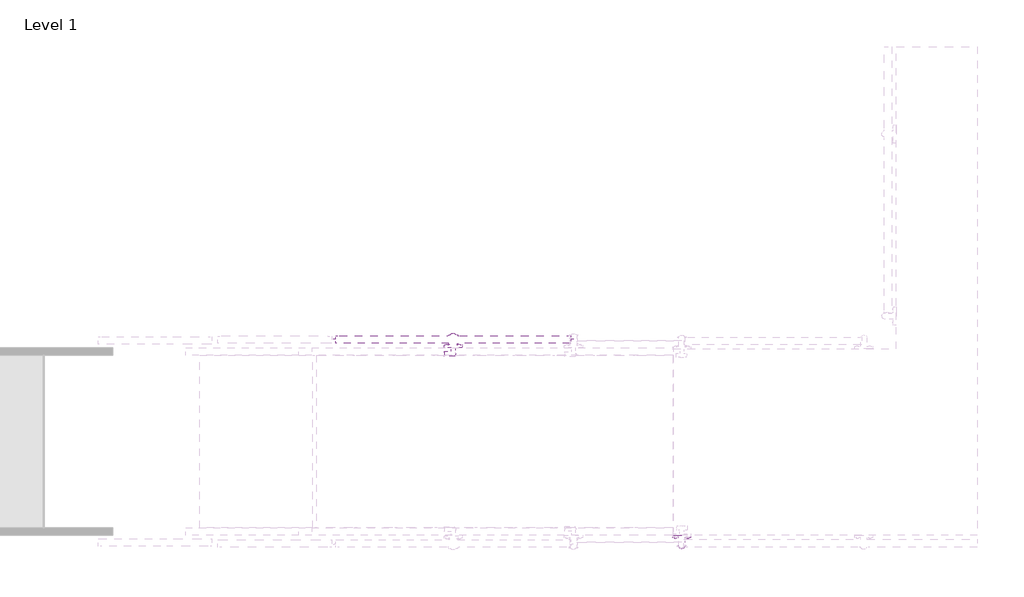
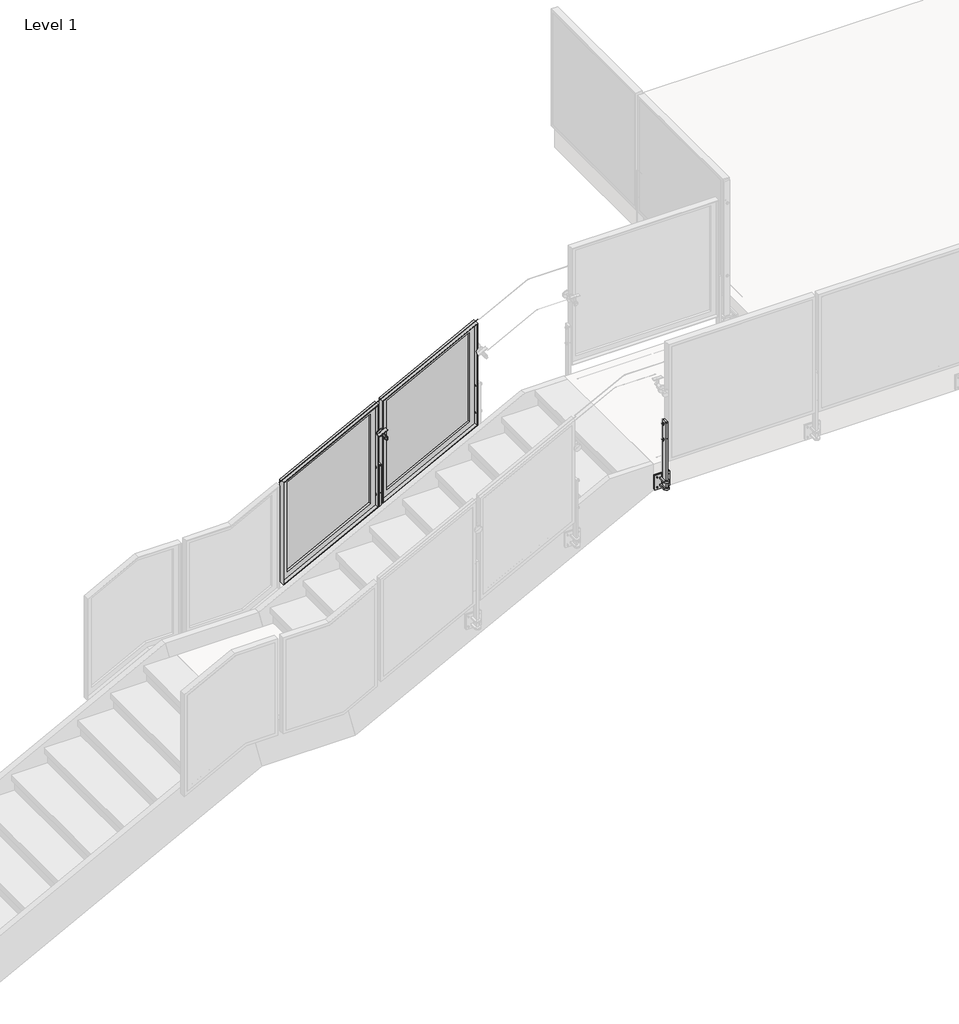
# One storey, part 23 of 37: 1 proxy, 1 railing.
"""IFC4 building model written with IfcOpenShell, lengths in millimetres."""

from ifc_helpers import new_model, si_unit, point, frame, frame_2d, origin, place, context, project, spatial, polyline, circle_curve, ellipse_curve, trimmed, segment, composite_curve, outline, extrude, faceted_brep, transform, mapped, element, save
from ifc_brep_helpers import plane_surface, cylinder_surface, advanced_brep
from components import baluster_end_post_viva_frame_top_mount_welded_fascia_mount_f3869cb3

model = new_model("IFC4")

# Units and contexts
model_context = context("Model", 3, world=origin())
ifc_project = project(units=[si_unit("LENGTHUNIT", "METRE", prefix="MILLI")], contexts=[model_context])

# Site, building, storey
site = spatial("IfcSite", under=ifc_project)
building = spatial("IfcBuilding", under=site)
storey = spatial("IfcBuildingStorey", under=building, Name="Level 1", Elevation=0.0)

# Proxy
placement = place(None, origin())
baluster_end_post_viva_frame_top_mount_welded_fascia_mount_shape = baluster_end_post_viva_frame_top_mount_welded_fascia_mount_f3869cb3(model_context)
element("IfcBuildingElementProxy", 1, Name="Baluster-End-Post-VIVA-FRAME-Top Mount : WELDED Fascia MOUNT FOLD_STRAIGHT", ObjectType="Baluster-End-Post-VIVA-FRAME-Top Mount : WELDED Fascia MOUNT FOLD_STRAIGHT", at=placement, inside=storey, context=model_context, shape_type="MappedRepresentation", body=[
    mapped(baluster_end_post_viva_frame_top_mount_welded_fascia_mount_shape, transform((-7412.9434339, -3841.0034112, 3047.492), x_axis=(1.0, 0.0, 0.0), y_axis=(0.0, 1.0, 0.0), z_axis=(0.0, 0.0, 1.0))),
])

# Railing
element("IfcRailing", 2, ObjectType="Metal-Panel-VIVA-FRAME-Fascia-Stairs-Upper", at=placement, inside=storey, context=model_context, shape_type="SolidModel", body=[
    advanced_brep(
    [(-9846.2150814, -2543.8507772, 2887.1943483), (-9846.2150814, -2542.8507772, 2887.1943483), (-8169.8150814, -2543.8507772, 3758.0514911), (-8169.8150814, -2542.8507772, 3758.0514911)],
    [
        (0, 1, ellipse_curve(frame((-9846.2150814, -2543.3507772, 2887.1943483), z_axis=(-1.0, 0.0, 0.0), x_axis=(0.0, 0.0, -1.0)), 0.5634403, 0.5)),
        (1, 0, ellipse_curve(frame((-9846.2150814, -2543.3507772, 2887.1943483), z_axis=(-1.0, 0.0, 0.0), x_axis=(0.0, 0.0, -1.0)), 0.5634403, 0.5)),
        (2, 3, ellipse_curve(frame((-8169.8150814, -2543.3507772, 3758.0514911), z_axis=(1.0, 0.0, 0.0), x_axis=(0.0, 0.0, -1.0)), 0.5634403, 0.5)),
        (3, 2, ellipse_curve(frame((-8169.8150814, -2543.3507772, 3758.0514911), z_axis=(1.0, 0.0, 0.0), x_axis=(0.0, 0.0, -1.0)), 0.5634403, 0.5)),
        (0, 2),
        (3, 1),
    ],
    [
        plane_surface(frame((-9846.2150814, -2543.3507772, 2887.7577886), z_axis=(-1.0, 0.0, 0.0), x_axis=(0.0, 1.0, 0.0))),
        plane_surface(frame((-8169.8150814, -2543.3507772, 3758.6149315), z_axis=(1.0, 0.0, 0.0), x_axis=(0.0, 1.0, 0.0))),
        cylinder_surface(frame((-9845.9845864, -2543.3507772, 2887.3140859), z_axis=(-0.8874054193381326, 0.0, -0.46098982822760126), x_axis=(0.0, 1.0, 0.0)), 0.5),
    ],
    [
        (0, [[1, 2]]),
        (1, [[3, 4]]),
        (2, [[-1, 5, -4, 6]]),
        (2, [[-2, -6, -3, -5]]),
    ],
),
    extrude(outline(polyline([(2460.8755486, -8963.5691244), (2850.1265024, -8214.2610383), (3704.4583258, -8214.2610383), (3315.2073719, -8963.5691244), (2460.8755486, -8963.5691244)])), frame((0.0, -2523.1053772, 0.0), z_axis=(0.0, 1.0, 0.0), x_axis=(0.0, 0.0, 1.0)), (0.0, 0.0, 1.0), 3.0),
    faceted_brep([(-8988.9691244, -2520.1053772, 3330.6353354), (-8188.8610383, -2520.1053772, 3746.2758996), (-8188.8610383, -2520.1053772, 2834.6985389), (-8988.9691244, -2520.1053772, 2419.0579747), (-8963.5691244, -2520.1053772, 3315.2073719), (-8963.5691244, -2520.1053772, 2460.8755486), (-8214.2610383, -2520.1053772, 2850.1265024), (-8214.2610383, -2520.1053772, 3704.4583258), (-8963.5691244, -2523.1053772, 2460.8755486), (-8214.2610383, -2523.1053772, 2850.1265024), (-8214.2610383, -2523.1053772, 3704.4583258), (-8963.5691244, -2523.1053772, 3315.2073719), (-8982.9747244, -2573.9053772, 2428.9269221), (-8194.8554383, -2573.9053772, 2838.3395383), (-8194.8554383, -2543.0951772, 2838.3395383), (-8982.9747244, -2543.0951772, 2428.9269221), (-8194.8554383, -2573.9053772, 3736.4069522), (-8194.8554383, -2543.0951772, 3736.4069522), (-8982.9747244, -2543.0951772, 3326.994336), (-8982.9747244, -2573.9053772, 3326.994336), (-8188.8610383, -2573.9053772, 2834.6985389), (-8188.8610383, -2573.9053772, 3746.2758996), (-8988.9691244, -2573.9053772, 3330.6353354), (-8988.9691244, -2573.9053772, 2419.0579747), (-8938.1691244, -2523.1053772, 3299.7794085), (-8938.1691244, -2523.1053772, 2502.6931224), (-8239.6610383, -2523.1053772, 2865.5544658), (-8239.6610383, -2523.1053772, 3662.6407519), (-8239.6610383, -2543.0951772, 2865.5544658), (-8938.1691244, -2543.0951772, 2502.6931224), (-8938.1691244, -2543.0951772, 3299.7794085), (-8239.6610383, -2543.0951772, 3662.6407519)], [[[0, 1, 2, 3], [4, 5, 6, 7]], [[5, 8, 9, 6]], [[6, 9, 10, 7]], [[7, 10, 11, 4]], [[4, 11, 8, 5]], [[12, 13, 14, 15]], [[13, 16, 17, 14]], [[15, 18, 19, 12]], [[20, 21, 22, 23], [12, 19, 16, 13]], [[23, 22, 0, 3]], [[23, 3, 2, 20]], [[2, 1, 21, 20]], [[22, 21, 1, 0]], [[11, 10, 9, 8], [24, 25, 26, 27]], [[14, 17, 18, 15], [28, 29, 30, 31]], [[18, 17, 16, 19]], [[27, 31, 30, 24]], [[26, 28, 31, 27]], [[25, 29, 28, 26]], [[24, 30, 29, 25]]]),
    extrude(outline(composite_curve([segment(trimmed(circle_curve(frame_2d((-19.0451471, 0.0)), 22.0448871), [point((2.99974, 0.0))], [point((-24.3499073, -21.3971159))], False, "CARTESIAN"), True, "CONTINUOUS"), segment(polyline([(-24.3499073, -21.3971159), (-23.6280664, -18.4855208)]), True, "CONTINUOUS"), segment(trimmed(circle_curve(frame_2d((-19.0451471, 0.0)), 19.0451471), [point((-23.6280664, -18.4855208))], [point((0.0, 0.0))], True, "CARTESIAN"), True, "CONTINUOUS"), segment(polyline([(0.0, 0.0), (2.99974, 0.0)]), True, "CONTINUOUS")], self_intersect=False)), frame((-9070.5027918, -2632.1067772, 3095.1525569), z_axis=(0.8874054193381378, 0.0, 0.4609898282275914), x_axis=(0.28405456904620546, 0.7876022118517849, -0.5468050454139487)), (0.0, 0.0, 1.0), 79.1184357),
    advanced_brep(
    [(-8995.6179037, -2647.1067772, 3036.8127931), (-8995.6179037, -2654.2505272, 3036.8127931), (-8995.6179037, -2639.9630272, 3036.8127931), (-9031.47715, -2639.9630272, 3105.8418421), (-9031.47715, -2654.2505272, 3105.8418421), (-9031.47715, -2647.1067772, 3105.8418421)],
    [
        (0, 1),
        (1, 2, circle_curve(frame((-8995.6179037, -2647.1067772, 3036.8127931), z_axis=(0.4609898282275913, 0.0, -0.8874054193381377), x_axis=(0.0, -1.0, 0.0)), 7.14375)),
        (2, 0),
        (3, 4, circle_curve(frame((-9031.47715, -2647.1067772, 3105.8418421), z_axis=(-0.4609898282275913, 0.0, 0.8874054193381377), x_axis=(0.0, -1.0, 0.0)), 7.14375)),
        (4, 5),
        (5, 3),
        (2, 1, circle_curve(frame((-8995.6179037, -2647.1067772, 3036.8127931), z_axis=(0.4609898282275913, 0.0, -0.8874054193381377), x_axis=(0.0, -1.0, 0.0)), 7.14375)),
        (4, 3, circle_curve(frame((-9031.47715, -2647.1067772, 3105.8418421), z_axis=(-0.4609898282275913, 0.0, 0.8874054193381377), x_axis=(0.0, -1.0, 0.0)), 7.14375)),
        (1, 4),
        (3, 2),
    ],
    [
        plane_surface(frame((-8995.6179037, -2647.1067772, 3036.8127931), z_axis=(0.4609898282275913, 0.0, -0.8874054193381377), x_axis=(0.0, -1.0, 0.0))),
        plane_surface(frame((-9031.47715, -2647.1067772, 3105.8418421), z_axis=(-0.4609898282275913, 0.0, 0.8874054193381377), x_axis=(0.0, -1.0, 0.0))),
        cylinder_surface(frame((-8878.6637039, -2647.1067772, 2811.6759583), z_axis=(0.4609898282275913, 0.0, -0.8874054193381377), x_axis=(0.0, -1.0, 0.0)), 7.14375),
    ],
    [
        (0, [[1, 2, 3]]),
        (1, [[4, 5, 6]]),
        (0, [[-3, 7, -1]]),
        (1, [[8, -6, -5]]),
        (2, [[-2, 9, -4, 10]]),
        (2, [[-7, -10, -8, -9]]),
    ],
),
    advanced_brep(
    [(-9034.7814473, -2520.1067772, 3046.7727543), (-8981.2487154, -2520.1067772, 3074.5819657), (-9002.380057, -2520.1067772, 3063.6046454), (-9013.6501058, -2520.1067772, 3057.7500746), (-9034.7814473, -2512.1692772, 3046.7727543), (-8981.2487154, -2512.1692772, 3074.5819657), (-9034.7814473, -2578.8442772, 3046.7727543), (-8981.2487154, -2578.8442772, 3074.5819657), (-8996.7450325, -2578.8442772, 3066.5319309), (-9019.2851302, -2578.8442772, 3054.8227892), (-9034.7814473, -2570.9067772, 3046.7727543), (-8981.2487154, -2570.9067772, 3074.5819657), (-9008.0150814, -2512.1692772, 3060.67736), (-9019.2851302, -2658.2192772, 3054.8227892), (-8996.7450325, -2658.2192772, 3066.5319309), (-9008.0150814, -2658.2192772, 3060.67736), (-9013.6501058, -2570.9067772, 3057.7500746), (-9002.380057, -2570.9067772, 3063.6046454)],
    [
        (0, 1, circle_curve(frame((-9008.0150814, -2520.1067772, 3060.67736), z_axis=(0.0, -1.0, 0.0), x_axis=(0.8874054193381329, 0.0, 0.46098982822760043)), 30.1625)),
        (1, 2),
        (2, 3, circle_curve(frame((-9008.0150814, -2520.1067772, 3060.67736), z_axis=(0.0, 1.0, 0.0), x_axis=(0.8874054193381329, 0.0, 0.46098982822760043)), 6.35)),
        (3, 0),
        (4, 5, circle_curve(frame((-9008.0150814, -2512.1692772, 3060.67736), z_axis=(0.0, -1.0, 0.0), x_axis=(0.8874054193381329, 0.0, 0.46098982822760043)), 30.1625)),
        (5, 1),
        (0, 4),
        (6, 7, circle_curve(frame((-9008.0150814, -2578.8442772, 3060.67736), z_axis=(0.0, -1.0, 0.0), x_axis=(0.8874054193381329, 0.0, 0.46098982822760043)), 30.1625)),
        (7, 8),
        (8, 9, circle_curve(frame((-9008.0150814, -2578.8442772, 3060.67736), z_axis=(0.0, 1.0, 0.0), x_axis=(0.8874054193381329, 0.0, 0.46098982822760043)), 12.7)),
        (9, 6),
        (10, 11, circle_curve(frame((-9008.0150814, -2570.9067772, 3060.67736), z_axis=(0.0, -1.0, 0.0), x_axis=(0.8874054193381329, 0.0, 0.46098982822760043)), 30.1625)),
        (11, 7),
        (6, 10),
        (5, 4, circle_curve(frame((-9008.0150814, -2512.1692772, 3060.67736), z_axis=(0.0, -1.0, 0.0), x_axis=(0.8874054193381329, 0.0, 0.46098982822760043)), 30.1625)),
        (0, 1, circle_curve(frame((-9008.0150814, -2520.1067772, 3060.67736), z_axis=(0.0, 1.0, 0.0), x_axis=(0.8874054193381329, 0.0, 0.46098982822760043)), 30.1625)),
        (12, 5),
        (4, 12),
        (13, 14, circle_curve(frame((-9008.0150814, -2658.2192772, 3060.67736), z_axis=(0.0, -1.0, 0.0), x_axis=(0.8874054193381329, 0.0, 0.46098982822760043)), 12.7)),
        (14, 15),
        (15, 13),
        (14, 13, circle_curve(frame((-9008.0150814, -2658.2192772, 3060.67736), z_axis=(0.0, -1.0, 0.0), x_axis=(0.8874054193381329, 0.0, 0.46098982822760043)), 12.7)),
        (8, 14),
        (13, 9),
        (8, 9, circle_curve(frame((-9008.0150814, -2578.8442772, 3060.67736), z_axis=(0.0, -1.0, 0.0), x_axis=(0.8874054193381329, 0.0, 0.46098982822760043)), 12.7)),
        (7, 6, circle_curve(frame((-9008.0150814, -2578.8442772, 3060.67736), z_axis=(0.0, -1.0, 0.0), x_axis=(0.8874054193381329, 0.0, 0.46098982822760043)), 30.1625)),
        (11, 10, circle_curve(frame((-9008.0150814, -2570.9067772, 3060.67736), z_axis=(0.0, -1.0, 0.0), x_axis=(0.8874054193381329, 0.0, 0.46098982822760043)), 30.1625)),
        (16, 17, circle_curve(frame((-9008.0150814, -2570.9067772, 3060.67736), z_axis=(0.0, -1.0, 0.0), x_axis=(0.8874054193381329, 0.0, 0.46098982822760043)), 6.35)),
        (17, 11),
        (10, 16),
        (17, 16, circle_curve(frame((-9008.0150814, -2570.9067772, 3060.67736), z_axis=(0.0, -1.0, 0.0), x_axis=(0.8874054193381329, 0.0, 0.46098982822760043)), 6.35)),
        (2, 17),
        (16, 3),
        (2, 3, circle_curve(frame((-9008.0150814, -2520.1067772, 3060.67736), z_axis=(0.0, -1.0, 0.0), x_axis=(0.8874054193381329, 0.0, 0.46098982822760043)), 6.35)),
    ],
    [
        plane_surface(frame((-9008.0150814, -2520.1067772, 3060.67736), z_axis=(0.0, -1.0, 0.0), x_axis=(0.8874054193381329, 0.0, 0.46098982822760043))),
        cylinder_surface(frame((-9008.0150814, -1046.9067772, 3060.67736), z_axis=(0.0, 1.0, 0.0), x_axis=(0.8874054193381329, 0.0, 0.46098982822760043)), 30.1625),
        plane_surface(frame((-9008.0150814, -2578.8442772, 3060.67736), z_axis=(0.0, -1.0, 0.0), x_axis=(0.8874054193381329, 0.0, 0.46098982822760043))),
        plane_surface(frame((-9008.0150814, -2512.1692772, 3060.67736), z_axis=(0.0, 1.0, 0.0), x_axis=(0.8874054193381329, 0.0, 0.46098982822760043))),
        plane_surface(frame((-9008.0150814, -2658.2192772, 3060.67736), z_axis=(0.0, -1.0, 0.0), x_axis=(0.8874054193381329, 0.0, 0.46098982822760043))),
        cylinder_surface(frame((-9008.0150814, -1046.9067772, 3060.67736), z_axis=(0.0, 1.0, 0.0), x_axis=(0.8874054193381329, 0.0, 0.46098982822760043)), 12.7),
        plane_surface(frame((-9008.0150814, -2570.9067772, 3060.67736), z_axis=(0.0, 1.0, 0.0), x_axis=(0.8874054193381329, 0.0, 0.46098982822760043))),
        cylinder_surface(frame((-9008.0150814, -1046.9067772, 3060.67736), z_axis=(0.0, 1.0, 0.0), x_axis=(0.8874054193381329, 0.0, 0.46098982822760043)), 6.35),
    ],
    [
        (0, [[1, 2, 3, 4]]),
        (1, [[5, 6, -1, 7]]),
        (2, [[8, 9, 10, 11]]),
        (1, [[12, 13, -8, 14]]),
        (1, [[15, -7, 16, -6]]),
        (3, [[17, -5, 18]]),
        (3, [[-18, -15, -17]]),
        (4, [[19, 20, 21]]),
        (4, [[22, -21, -20]]),
        (5, [[-10, 23, -19, 24]]),
        (5, [[25, -24, -22, -23]]),
        (2, [[26, -11, -25, -9]]),
        (1, [[27, -14, -26, -13]]),
        (6, [[28, 29, -12, 30]]),
        (6, [[31, -30, -27, -29]]),
        (7, [[-3, 32, -28, 33]]),
        (7, [[34, -33, -31, -32]]),
        (0, [[-16, -4, -34, -2]]),
    ],
),
    extrude(outline(composite_curve([segment(trimmed(circle_curve(frame_2d((-9008.0150814, -2525.7058705)), 23.0378), [point((-9031.0528814, -2525.7058705))], [point((-8984.9772814, -2525.7058705))], False, "CARTESIAN"), True, "CONTINUOUS"), segment(polyline([(-8984.9772814, -2525.7058705), (-8984.9772814, -2583.6067772), (-9031.0528814, -2583.6067772), (-9031.0528814, -2525.7058705)]), True, "CONTINUOUS")], self_intersect=False)), frame((0.0, 0.0, 2172.3495143), z_axis=(0.0, 0.0, 1.0), x_axis=(1.0, 0.0, 0.0)), (0.0, 0.0, 1.0), 12.7),
    extrude(outline(composite_curve([segment(polyline([(-8984.9772814, -2583.6067772), (-9031.0528814, -2583.6067772), (-9031.0528814, -2525.7058705)]), True, "CONTINUOUS"), segment(trimmed(circle_curve(frame_2d((-9008.0150814, -2525.7058705)), 23.0378), [point((-9031.0528814, -2525.7058705))], [point((-8984.9772814, -2525.7058705))], False, "CARTESIAN"), True, "CONTINUOUS"), segment(polyline([(-8984.9772814, -2525.7058705), (-8984.9772814, -2583.6067772)]), True, "CONTINUOUS")], self_intersect=False)), frame((0.0, 0.0, 2234.2747143), z_axis=(0.0, 0.0, 1.0), x_axis=(1.0, 0.0, 0.0)), (0.0, 0.0, 1.0), 12.7),
    extrude(outline(composite_curve([segment(trimmed(circle_curve(frame_2d((2254.9249143, -8963.5701495)), 4.7752), [point((2254.9249143, -8958.7949495))], [point((2254.9249143, -8968.3453495))], False, "CARTESIAN"), True, "CONTINUOUS"), segment(trimmed(circle_curve(frame_2d((2254.9249143, -8963.5701495)), 4.7752), [point((2254.9249143, -8968.3453495))], [point((2254.9249143, -8958.7949495))], False, "CARTESIAN"), True, "CONTINUOUS")], self_intersect=False)), frame((0.0, -2593.1317772, 0.0), z_axis=(0.0, 1.0, 0.0), x_axis=(0.0, 0.0, 1.0)), (0.0, 0.0, 1.0), 14.3002),
    extrude(outline(composite_curve([segment(trimmed(circle_curve(frame_2d((2254.9249143, -9052.4600132)), 4.7752), [point((2254.9249143, -9047.6848132))], [point((2254.9249143, -9057.2352132))], False, "CARTESIAN"), True, "CONTINUOUS"), segment(trimmed(circle_curve(frame_2d((2254.9249143, -9052.4600132)), 4.7752), [point((2254.9249143, -9057.2352132))], [point((2254.9249143, -9047.6848132))], False, "CARTESIAN"), True, "CONTINUOUS")], self_intersect=False)), frame((0.0, -2593.1317772, 0.0), z_axis=(0.0, 1.0, 0.0), x_axis=(0.0, 0.0, 1.0)), (0.0, 0.0, 1.0), 14.3002),
    extrude(outline(composite_curve([segment(trimmed(circle_curve(frame_2d((2166.0249143, -9052.4600132)), 4.7752), [point((2166.0249143, -9047.6848132))], [point((2166.0249143, -9057.2352132))], False, "CARTESIAN"), True, "CONTINUOUS"), segment(trimmed(circle_curve(frame_2d((2166.0249143, -9052.4600132)), 4.7752), [point((2166.0249143, -9057.2352132))], [point((2166.0249143, -9047.6848132))], False, "CARTESIAN"), True, "CONTINUOUS")], self_intersect=False)), frame((0.0, -2593.1317772, 0.0), z_axis=(0.0, 1.0, 0.0), x_axis=(0.0, 0.0, 1.0)), (0.0, 0.0, 1.0), 14.3002),
    extrude(outline(composite_curve([segment(trimmed(circle_curve(frame_2d((2166.0249143, -8963.5701495)), 4.7752), [point((2166.0249143, -8958.7949495))], [point((2166.0249143, -8968.3453495))], False, "CARTESIAN"), True, "CONTINUOUS"), segment(trimmed(circle_curve(frame_2d((2166.0249143, -8963.5701495)), 4.7752), [point((2166.0249143, -8968.3453495))], [point((2166.0249143, -8958.7949495))], False, "CARTESIAN"), True, "CONTINUOUS")], self_intersect=False)), frame((0.0, -2593.1317772, 0.0), z_axis=(0.0, 1.0, 0.0), x_axis=(0.0, 0.0, 1.0)), (0.0, 0.0, 1.0), 14.3002),
    extrude(outline(polyline([(-8944.5170598, -2593.1317772), (-8944.5170598, -2602.6567772), (-9071.5131029, -2602.6567772), (-9071.5131029, -2593.1317772), (-8944.5170598, -2593.1317772)])), frame((0.0, 0.0, 2146.9749143), z_axis=(0.0, 0.0, 1.0), x_axis=(1.0, 0.0, 0.0)), (0.0, 0.0, 1.0), 127.0),
    extrude(outline(polyline([(-8944.5170598, -2583.6067772), (-8944.5170598, -2593.1317772), (-9071.5131029, -2593.1317772), (-9071.5131029, -2583.6067772), (-8944.5170598, -2583.6067772)])), frame((0.0, 0.0, 2146.9749143), z_axis=(0.0, 0.0, 1.0), x_axis=(1.0, 0.0, 0.0)), (0.0, 0.0, 1.0), 127.0),
    advanced_brep(
    [(-9034.2024814, -2545.5067772, 2491.4243143), (-9034.2024814, -2545.5067772, 2500.9747143), (-9034.2024814, -2545.5067772, 2510.5251143), (-9029.4272814, -2545.5067772, 2491.4243143), (-9029.4272814, -2545.5067772, 2510.5251143), (-9029.4272814, -2545.5067772, 2496.1995143), (-9029.4272814, -2545.5067772, 2505.7499143), (-8986.6028814, -2545.5067772, 2496.1995143), (-8986.6028814, -2545.5067772, 2505.7499143), (-8986.6028814, -2545.5067772, 2491.4243143), (-8986.6028814, -2545.5067772, 2510.5251143), (-8981.8276814, -2545.5067772, 2491.4243143), (-8981.8276814, -2545.5067772, 2510.5251143), (-8981.8276814, -2545.5067772, 2500.9747143)],
    [
        (0, 1),
        (1, 2),
        (2, 0, circle_curve(frame((-9034.2024814, -2545.5067772, 2500.9747143), z_axis=(-1.0, 0.0, 0.0), x_axis=(0.0, 0.0, 1.0)), 9.5504)),
        (0, 2, circle_curve(frame((-9034.2024814, -2545.5067772, 2500.9747143), z_axis=(-1.0, 0.0, 0.0), x_axis=(0.0, 0.0, 1.0)), 9.5504)),
        (3, 0),
        (2, 4),
        (4, 3, circle_curve(frame((-9029.4272814, -2545.5067772, 2500.9747143), z_axis=(-1.0, 0.0, 0.0), x_axis=(0.0, 0.0, 1.0)), 9.5504)),
        (3, 4, circle_curve(frame((-9029.4272814, -2545.5067772, 2500.9747143), z_axis=(-1.0, 0.0, 0.0), x_axis=(0.0, 0.0, 1.0)), 9.5504)),
        (5, 3),
        (4, 6),
        (6, 5, circle_curve(frame((-9029.4272814, -2545.5067772, 2500.9747143), z_axis=(-1.0, 0.0, 0.0), x_axis=(0.0, 0.0, 1.0)), 4.7752)),
        (5, 6, circle_curve(frame((-9029.4272814, -2545.5067772, 2500.9747143), z_axis=(-1.0, 0.0, 0.0), x_axis=(0.0, 0.0, 1.0)), 4.7752)),
        (7, 5),
        (6, 8),
        (8, 7, circle_curve(frame((-8986.6028814, -2545.5067772, 2500.9747143), z_axis=(-1.0, 0.0, 0.0), x_axis=(0.0, 0.0, 1.0)), 4.7752)),
        (7, 8, circle_curve(frame((-8986.6028814, -2545.5067772, 2500.9747143), z_axis=(-1.0, 0.0, 0.0), x_axis=(0.0, 0.0, 1.0)), 4.7752)),
        (9, 7),
        (8, 10),
        (10, 9, circle_curve(frame((-8986.6028814, -2545.5067772, 2500.9747143), z_axis=(-1.0, 0.0, 0.0), x_axis=(0.0, 0.0, 1.0)), 9.5504)),
        (9, 10, circle_curve(frame((-8986.6028814, -2545.5067772, 2500.9747143), z_axis=(-1.0, 0.0, 0.0), x_axis=(0.0, 0.0, 1.0)), 9.5504)),
        (11, 9),
        (10, 12),
        (12, 11, circle_curve(frame((-8981.8276814, -2545.5067772, 2500.9747143), z_axis=(-1.0, 0.0, 0.0), x_axis=(0.0, 0.0, 1.0)), 9.5504)),
        (11, 12, circle_curve(frame((-8981.8276814, -2545.5067772, 2500.9747143), z_axis=(-1.0, 0.0, 0.0), x_axis=(0.0, 0.0, 1.0)), 9.5504)),
        (13, 11),
        (12, 13),
    ],
    [
        plane_surface(frame((-9034.2024814, -2545.5067772, 2500.9747143), z_axis=(-1.0, 0.0, 0.0), x_axis=(0.0, 0.0, 1.0))),
        cylinder_surface(frame((-12425.7828385, -2545.5067772, 2500.9747143), z_axis=(1.0, 0.0, 0.0), x_axis=(0.0, 0.0, 1.0)), 9.5504),
        plane_surface(frame((-9029.4272814, -2545.5067772, 2500.9747143), z_axis=(1.0, 0.0, 0.0), x_axis=(0.0, 0.0, 1.0))),
        cylinder_surface(frame((-12425.7828385, -2545.5067772, 2500.9747143), z_axis=(1.0, 0.0, 0.0), x_axis=(0.0, 0.0, 1.0)), 4.7752),
        plane_surface(frame((-8986.6028814, -2545.5067772, 2500.9747143), z_axis=(-1.0, 0.0, 0.0), x_axis=(0.0, 0.0, 1.0))),
        plane_surface(frame((-8981.8276814, -2545.5067772, 2500.9747143), z_axis=(1.0, 0.0, 0.0), x_axis=(0.0, 0.0, 1.0))),
    ],
    [
        (0, [[1, 2, 3]]),
        (0, [[-2, -1, 4]]),
        (1, [[5, -3, 6, 7]]),
        (1, [[-6, -4, -5, 8]]),
        (2, [[9, -7, 10, 11]]),
        (2, [[-10, -8, -9, 12]]),
        (3, [[13, -11, 14, 15]]),
        (3, [[-14, -12, -13, 16]]),
        (4, [[17, -15, 18, 19]]),
        (4, [[-18, -16, -17, 20]]),
        (1, [[21, -19, 22, 23]]),
        (1, [[-22, -20, -21, 24]]),
        (5, [[25, -23, 26]]),
        (5, [[-26, -24, -25]]),
    ],
),
    advanced_brep(
    [(-9034.2024814, -2545.5067772, 2732.7243143), (-9034.2024814, -2545.5067772, 2742.2747143), (-9034.2024814, -2545.5067772, 2751.8251143), (-9029.4272814, -2545.5067772, 2732.7243143), (-9029.4272814, -2545.5067772, 2751.8251143), (-9029.4272814, -2545.5067772, 2737.4995143), (-9029.4272814, -2545.5067772, 2747.0499143), (-8986.6028814, -2545.5067772, 2737.4995143), (-8986.6028814, -2545.5067772, 2747.0499143), (-8986.6028814, -2545.5067772, 2732.7243143), (-8986.6028814, -2545.5067772, 2751.8251143), (-8981.8276814, -2545.5067772, 2732.7243143), (-8981.8276814, -2545.5067772, 2751.8251143), (-8981.8276814, -2545.5067772, 2742.2747143)],
    [
        (0, 1),
        (1, 2),
        (2, 0, circle_curve(frame((-9034.2024814, -2545.5067772, 2742.2747143), z_axis=(-1.0, 0.0, 0.0), x_axis=(0.0, 0.0, 1.0)), 9.5504)),
        (0, 2, circle_curve(frame((-9034.2024814, -2545.5067772, 2742.2747143), z_axis=(-1.0, 0.0, 0.0), x_axis=(0.0, 0.0, 1.0)), 9.5504)),
        (3, 0),
        (2, 4),
        (4, 3, circle_curve(frame((-9029.4272814, -2545.5067772, 2742.2747143), z_axis=(-1.0, 0.0, 0.0), x_axis=(0.0, 0.0, 1.0)), 9.5504)),
        (3, 4, circle_curve(frame((-9029.4272814, -2545.5067772, 2742.2747143), z_axis=(-1.0, 0.0, 0.0), x_axis=(0.0, 0.0, 1.0)), 9.5504)),
        (5, 3),
        (4, 6),
        (6, 5, circle_curve(frame((-9029.4272814, -2545.5067772, 2742.2747143), z_axis=(-1.0, 0.0, 0.0), x_axis=(0.0, 0.0, 1.0)), 4.7752)),
        (5, 6, circle_curve(frame((-9029.4272814, -2545.5067772, 2742.2747143), z_axis=(-1.0, 0.0, 0.0), x_axis=(0.0, 0.0, 1.0)), 4.7752)),
        (7, 5),
        (6, 8),
        (8, 7, circle_curve(frame((-8986.6028814, -2545.5067772, 2742.2747143), z_axis=(-1.0, 0.0, 0.0), x_axis=(0.0, 0.0, 1.0)), 4.7752)),
        (7, 8, circle_curve(frame((-8986.6028814, -2545.5067772, 2742.2747143), z_axis=(-1.0, 0.0, 0.0), x_axis=(0.0, 0.0, 1.0)), 4.7752)),
        (9, 7),
        (8, 10),
        (10, 9, circle_curve(frame((-8986.6028814, -2545.5067772, 2742.2747143), z_axis=(-1.0, 0.0, 0.0), x_axis=(0.0, 0.0, 1.0)), 9.5504)),
        (9, 10, circle_curve(frame((-8986.6028814, -2545.5067772, 2742.2747143), z_axis=(-1.0, 0.0, 0.0), x_axis=(0.0, 0.0, 1.0)), 9.5504)),
        (11, 9),
        (10, 12),
        (12, 11, circle_curve(frame((-8981.8276814, -2545.5067772, 2742.2747143), z_axis=(-1.0, 0.0, 0.0), x_axis=(0.0, 0.0, 1.0)), 9.5504)),
        (11, 12, circle_curve(frame((-8981.8276814, -2545.5067772, 2742.2747143), z_axis=(-1.0, 0.0, 0.0), x_axis=(0.0, 0.0, 1.0)), 9.5504)),
        (13, 11),
        (12, 13),
    ],
    [
        plane_surface(frame((-9034.2024814, -2545.5067772, 2742.2747143), z_axis=(-1.0, 0.0, 0.0), x_axis=(0.0, 0.0, 1.0))),
        cylinder_surface(frame((-12425.7828385, -2545.5067772, 2742.2747143), z_axis=(1.0, 0.0, 0.0), x_axis=(0.0, 0.0, 1.0)), 9.5504),
        plane_surface(frame((-9029.4272814, -2545.5067772, 2742.2747143), z_axis=(1.0, 0.0, 0.0), x_axis=(0.0, 0.0, 1.0))),
        cylinder_surface(frame((-12425.7828385, -2545.5067772, 2742.2747143), z_axis=(1.0, 0.0, 0.0), x_axis=(0.0, 0.0, 1.0)), 4.7752),
        plane_surface(frame((-8986.6028814, -2545.5067772, 2742.2747143), z_axis=(-1.0, 0.0, 0.0), x_axis=(0.0, 0.0, 1.0))),
        plane_surface(frame((-8981.8276814, -2545.5067772, 2742.2747143), z_axis=(1.0, 0.0, 0.0), x_axis=(0.0, 0.0, 1.0))),
    ],
    [
        (0, [[1, 2, 3]]),
        (0, [[-2, -1, 4]]),
        (1, [[5, -3, 6, 7]]),
        (1, [[-6, -4, -5, 8]]),
        (2, [[9, -7, 10, 11]]),
        (2, [[-10, -8, -9, 12]]),
        (3, [[13, -11, 14, 15]]),
        (3, [[-14, -12, -13, 16]]),
        (4, [[17, -15, 18, 19]]),
        (4, [[-18, -16, -17, 20]]),
        (1, [[21, -19, 22, 23]]),
        (1, [[-22, -20, -21, 24]]),
        (5, [[25, -23, 26]]),
        (5, [[-26, -24, -25]]),
    ],
),
    extrude(outline(polyline([(-9015.954673, -2567.7317772), (-9015.954673, -2523.2817772), (-9000.0754897, -2523.2817772), (-9000.0754897, -2567.7317772), (-9015.954673, -2567.7317772)])), frame((0.0, 0.0, 2178.6995143), z_axis=(0.0, 0.0, 1.0), x_axis=(1.0, 0.0, 0.0)), (0.0, 0.0, 1.0), 588.9752),
    extrude(outline(polyline([(2025.4469771, -9801.7691244), (2414.697931, -9052.4610383), (3269.0297543, -9052.4610383), (2879.7788005, -9801.7691244), (2025.4469771, -9801.7691244)])), frame((0.0, -2523.1053772, 0.0), z_axis=(0.0, 1.0, 0.0), x_axis=(0.0, 0.0, 1.0)), (0.0, 0.0, 1.0), 3.0),
    faceted_brep([(-9827.1691244, -2520.1053772, 2895.2067639), (-9027.0610383, -2520.1053772, 3310.8473282), (-9027.0610383, -2520.1053772, 2399.2699675), (-9827.1691244, -2520.1053772, 1983.6294033), (-9801.7691244, -2520.1053772, 2879.7788005), (-9801.7691244, -2520.1053772, 2025.4469771), (-9052.4610383, -2520.1053772, 2414.697931), (-9052.4610383, -2520.1053772, 3269.0297543), (-9801.7691244, -2523.1053772, 2025.4469771), (-9052.4610383, -2523.1053772, 2414.697931), (-9052.4610383, -2523.1053772, 3269.0297543), (-9801.7691244, -2523.1053772, 2879.7788005), (-9821.1747244, -2573.9053772, 1993.4983507), (-9033.0554383, -2573.9053772, 2402.9109669), (-9033.0554383, -2543.0951772, 2402.9109669), (-9821.1747244, -2543.0951772, 1993.4983507), (-9033.0554383, -2573.9053772, 3300.9783807), (-9033.0554383, -2543.0951772, 3300.9783807), (-9821.1747244, -2543.0951772, 2891.5657646), (-9821.1747244, -2573.9053772, 2891.5657646), (-9027.0610383, -2573.9053772, 2399.2699675), (-9027.0610383, -2573.9053772, 3310.8473282), (-9827.1691244, -2573.9053772, 2895.2067639), (-9827.1691244, -2573.9053772, 1983.6294033), (-9776.3691244, -2523.1053772, 2864.3508371), (-9776.3691244, -2523.1053772, 2067.264551), (-9077.8610383, -2523.1053772, 2430.1258944), (-9077.8610383, -2523.1053772, 3227.2121805), (-9077.8610383, -2543.0951772, 2430.1258944), (-9776.3691244, -2543.0951772, 2067.264551), (-9776.3691244, -2543.0951772, 2864.3508371), (-9077.8610383, -2543.0951772, 3227.2121805)], [[[0, 1, 2, 3], [4, 5, 6, 7]], [[5, 8, 9, 6]], [[6, 9, 10, 7]], [[7, 10, 11, 4]], [[4, 11, 8, 5]], [[12, 13, 14, 15]], [[13, 16, 17, 14]], [[15, 18, 19, 12]], [[20, 21, 22, 23], [12, 19, 16, 13]], [[23, 22, 0, 3]], [[23, 3, 2, 20]], [[2, 1, 21, 20]], [[22, 21, 1, 0]], [[11, 10, 9, 8], [24, 25, 26, 27]], [[14, 17, 18, 15], [28, 29, 30, 31]], [[18, 17, 16, 19]], [[27, 31, 30, 24]], [[26, 28, 31, 27]], [[25, 29, 28, 26]], [[24, 30, 29, 25]]]),
])

save(model, "model.ifc")
